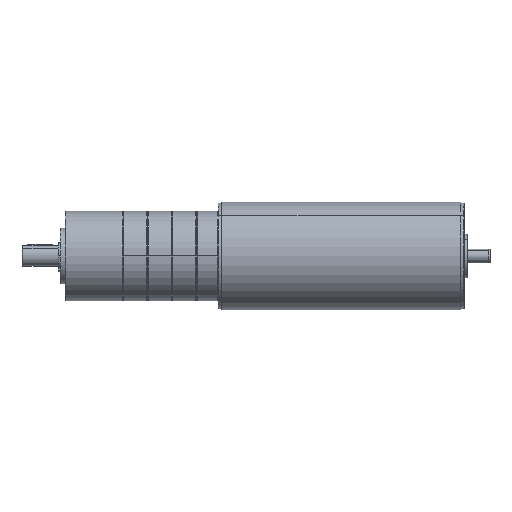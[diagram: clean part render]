
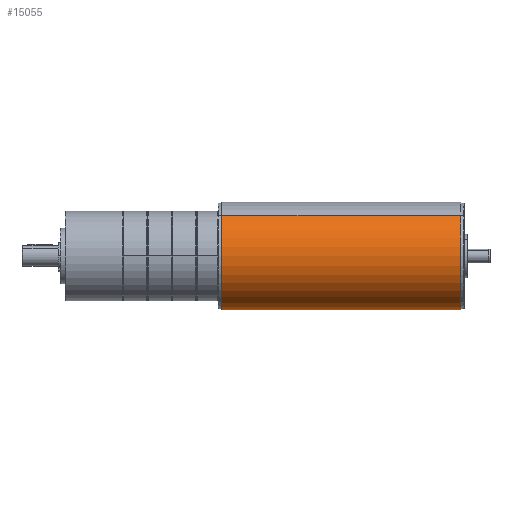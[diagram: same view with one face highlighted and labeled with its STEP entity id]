
A CAD part, front view. The second image highlights one B-rep face of the part: STEP entity #15055.
In plain terms, the highlighted cylindrical face has radius 31 mm (diameter 62 mm), a partial arc.
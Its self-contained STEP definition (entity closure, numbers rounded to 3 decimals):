
#279 = CARTESIAN_POINT ( 'NONE',  ( -31., 0., -138.5 ) ) ;
#685 = CARTESIAN_POINT ( 'NONE',  ( -31., 0., -0.5 ) ) ;
#1141 = DIRECTION ( 'NONE',  ( 0., 0., -1. ) ) ;
#1659 = VECTOR ( 'NONE', #9261, 1000. ) ;
#3271 = AXIS2_PLACEMENT_3D ( 'NONE', #13141, #13057, #6314 ) ;
#3505 = VECTOR ( 'NONE', #22845, 1000. ) ;
#4823 = LINE ( 'NONE', #12421, #3505 ) ;
#5452 = CARTESIAN_POINT ( 'NONE',  ( 31., 0., -0.5 ) ) ;
#5514 = VERTEX_POINT ( 'NONE', #9407 ) ;
#5521 = AXIS2_PLACEMENT_3D ( 'NONE', #18912, #16790, #12726 ) ;
#5826 = VERTEX_POINT ( 'NONE', #279 ) ;
#6041 = VERTEX_POINT ( 'NONE', #5452 ) ;
#6091 = AXIS2_PLACEMENT_3D ( 'NONE', #13477, #1141, #15550 ) ;
#6275 = FACE_OUTER_BOUND ( 'NONE', #7962, .T. ) ;
#6314 = DIRECTION ( 'NONE',  ( -1., 0., 0. ) ) ;
#7828 = LINE ( 'NONE', #19575, #1659 ) ;
#7962 = EDGE_LOOP ( 'NONE', ( #24612, #25993, #12877, #22511 ) ) ;
#9123 = CYLINDRICAL_SURFACE ( 'NONE', #5521, 31. ) ;
#9261 = DIRECTION ( 'NONE',  ( 0., 0., -1. ) ) ;
#9407 = CARTESIAN_POINT ( 'NONE',  ( 31., 0., -138.5 ) ) ;
#10801 = EDGE_CURVE ( 'NONE', #11232, #5826, #7828, .T. ) ;
#11232 = VERTEX_POINT ( 'NONE', #685 ) ;
#12310 = EDGE_CURVE ( 'NONE', #6041, #5514, #4823, .T. ) ;
#12421 = CARTESIAN_POINT ( 'NONE',  ( 31., 0., 35.6 ) ) ;
#12726 = DIRECTION ( 'NONE',  ( -1., 0., 0. ) ) ;
#12877 = ORIENTED_EDGE ( 'NONE', *, *, #10801, .T. ) ;
#13057 = DIRECTION ( 'NONE',  ( 0., 0., 1. ) ) ;
#13128 = EDGE_CURVE ( 'NONE', #6041, #11232, #22157, .T. ) ;
#13141 = CARTESIAN_POINT ( 'NONE',  ( 0., 0., -138.5 ) ) ;
#13477 = CARTESIAN_POINT ( 'NONE',  ( 0., 0., -0.5 ) ) ;
#14982 = EDGE_CURVE ( 'NONE', #5826, #5514, #17833, .T. ) ;
#15055 = ADVANCED_FACE ( 'NONE', ( #6275 ), #9123, .T. ) ;
#15550 = DIRECTION ( 'NONE',  ( -1., 0., 0. ) ) ;
#16790 = DIRECTION ( 'NONE',  ( 0., 0., -1. ) ) ;
#17833 = CIRCLE ( 'NONE', #3271, 31. ) ;
#18912 = CARTESIAN_POINT ( 'NONE',  ( 0., 0., 35.6 ) ) ;
#19575 = CARTESIAN_POINT ( 'NONE',  ( -31., 0., 35.6 ) ) ;
#22157 = CIRCLE ( 'NONE', #6091, 31. ) ;
#22511 = ORIENTED_EDGE ( 'NONE', *, *, #14982, .T. ) ;
#22845 = DIRECTION ( 'NONE',  ( 0., 0., -1. ) ) ;
#24612 = ORIENTED_EDGE ( 'NONE', *, *, #12310, .F. ) ;
#25993 = ORIENTED_EDGE ( 'NONE', *, *, #13128, .T. ) ;
